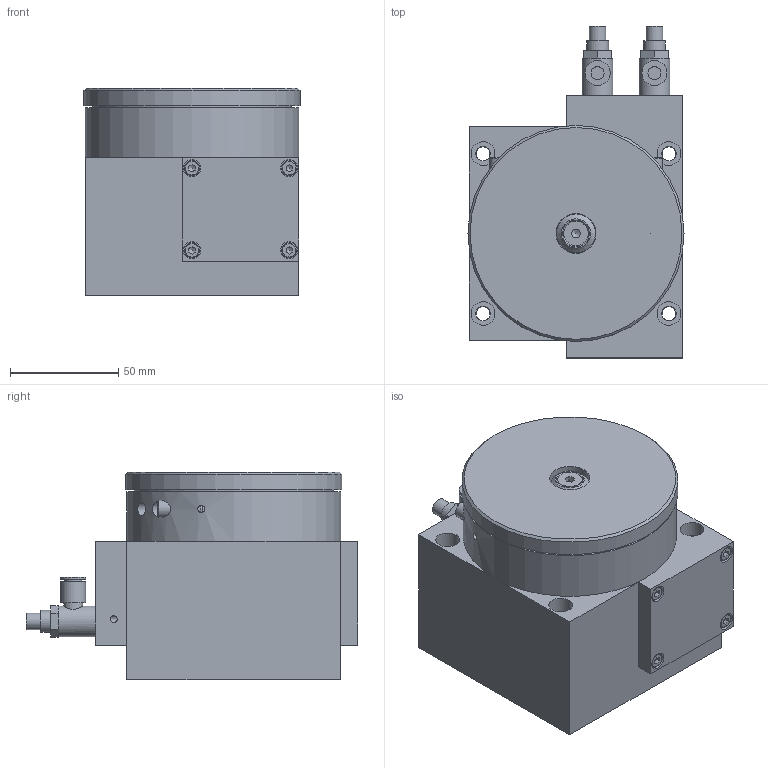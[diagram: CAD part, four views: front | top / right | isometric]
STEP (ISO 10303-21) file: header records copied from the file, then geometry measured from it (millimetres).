
FILE_DESCRIPTION((''),'2;1');
FILE_NAME('M:\Machines\_PLANS\7040000\BLOCS_STEP\TPA100-1-180-_-_-_.stp','2015-04-14T14:38:11',('miemmola'),(''),'Autodesk Inventor 2012','Autodesk Inventor 2012','');
FILE_SCHEMA(('AUTOMOTIVE_DESIGN { 1 0 10303 214 1 1 1 1 }'));
Length unit declared in the file: millimetre
Products named in the file (1): TPA100-1-180-_-_-__Enveloppe_1
Bounding box: 100 x 153.6 x 96 mm (x, y, z)
Volume: 734794.5 mm3; surface area: 129341.7 mm2
Topology: 2 solids, 24 shells, 520 faces, 1157 edges, 752 vertices
Faces by surface type: plane 274, cylinder 156, cone 60, torus 24, sphere 6
Full cylindrical faces by diameter (mm): 2.6 x1, 3 x2, 3.242 x14, 3.3 x1, 4 x9, 4.134 x1, 4.3 x10, 4.917 x3, 5.5 x1, 6 x10, 6.1 x2, 6.4 x7, 6.7 x4, 7 x8, 7.459 x2, 7.62 x2, 8 x14, 8.566 x4, 8.8 x2, 10 x3, 10.16 x2, 11 x7, 11.34 x1, 11.6 x4, 14.2 x2, 15.4 x1, 18 x1, 18.5 x1, 19.8 x1, 20 x1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
Entity records: 13687 total; most frequent: CARTESIAN_POINT 3181, DIRECTION 2095, ORIENTED_EDGE 1624, AXIS2_PLACEMENT_3D 891, EDGE_LOOP 862, EDGE_CURVE 812, VERTEX_POINT 633, STYLED_ITEM 521
